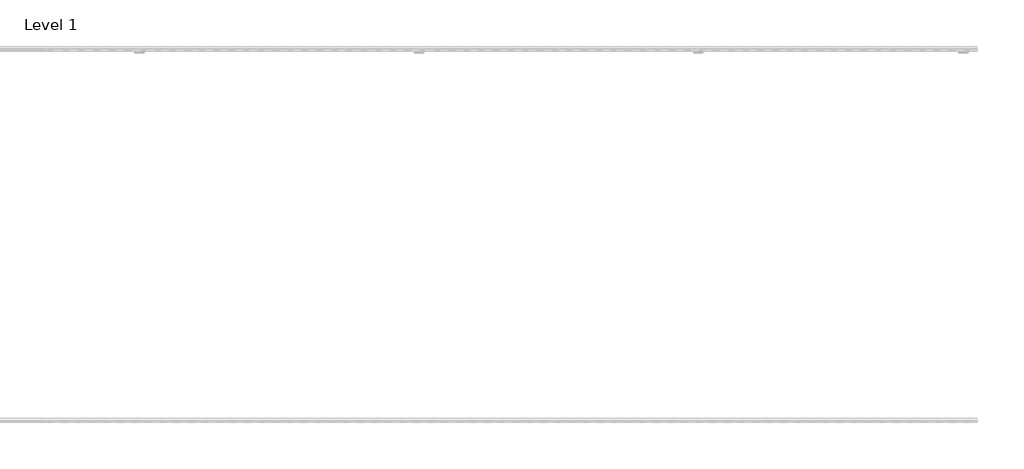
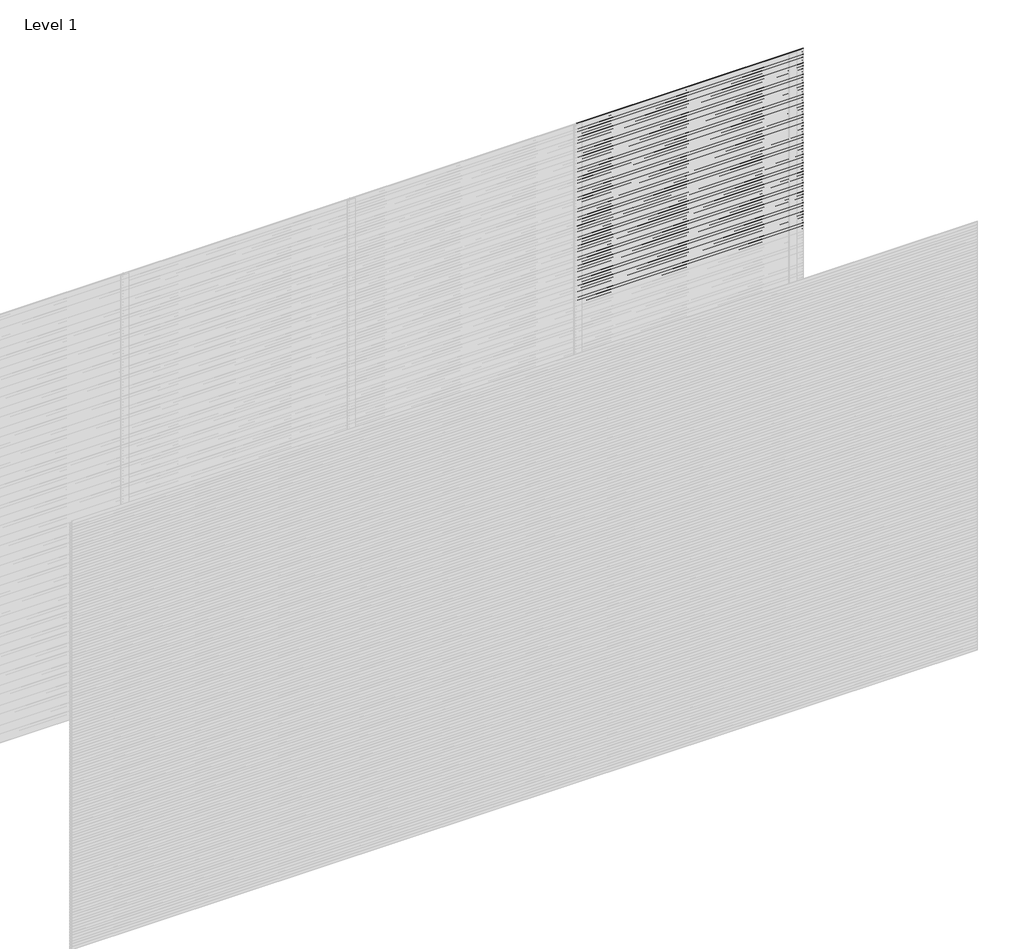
# One storey, part 30 of 31: 104 proxies.
"""IFC4 building model written with IfcOpenShell, lengths in millimetres."""

from ifc_helpers import new_model, si_unit, frame, origin, place, context, project, spatial, polyline, outline, extrude, element, save

model = new_model("IFC4")

# Units and contexts
model_context = context("Model", 3, world=origin())
ifc_project = project(units=[si_unit("LENGTHUNIT", "METRE", prefix="MILLI")], contexts=[model_context])

# Site, building, storey
site = spatial("IfcSite", under=ifc_project)
building = spatial("IfcBuilding", under=site)
storey = spatial("IfcBuildingStorey", under=building, Name="Level 1", Elevation=0.0)

# Proxies
placement = place(None, origin())
element("IfcBuildingElementProxy", 1, Name="Wall Sweeps", at=placement, inside=storey, context=model_context, shape_type="SweptSolid", body=[
    extrude(outline(polyline([(5.0, 820.0), (5.0, 808.942893), (24.0, 793.0), (24.0, 780.0), (3.0, 797.6210923), (3.0, 820.0), (5.0, 820.0)])), frame((3000.0, 0.0, 0.0), z_axis=(1.0, 0.0, 0.0), x_axis=(0.0, 1.0, 0.0)), (0.0, 0.0, 1.0), 1500.0),
])
element("IfcBuildingElementProxy", 2, Name="Wall Sweeps", at=placement, inside=storey, context=model_context, shape_type="SweptSolid", body=[
    extrude(outline(polyline([(5.0, 800.0), (5.0, 788.942893), (24.0, 773.0), (24.0, 760.0), (3.0, 777.6210923), (3.0, 800.0), (5.0, 800.0)])), frame((3000.0, 0.0, 0.0), z_axis=(1.0, 0.0, 0.0), x_axis=(0.0, 1.0, 0.0)), (0.0, 0.0, 1.0), 1500.0),
])
element("IfcBuildingElementProxy", 3, Name="Wall Sweeps", at=placement, inside=storey, context=model_context, shape_type="SweptSolid", body=[
    extrude(outline(polyline([(5.0, 780.0), (5.0, 768.942893), (24.0, 753.0), (24.0, 740.0), (3.0, 757.6210923), (3.0, 780.0), (5.0, 780.0)])), frame((3000.0, 0.0, 0.0), z_axis=(1.0, 0.0, 0.0), x_axis=(0.0, 1.0, 0.0)), (0.0, 0.0, 1.0), 1500.0),
])
element("IfcBuildingElementProxy", 4, Name="Wall Sweeps", at=placement, inside=storey, context=model_context, shape_type="SweptSolid", body=[
    extrude(outline(polyline([(5.0, 760.0), (5.0, 748.942893), (24.0, 733.0), (24.0, 720.0), (3.0, 737.6210923), (3.0, 760.0), (5.0, 760.0)])), frame((3000.0, 0.0, 0.0), z_axis=(1.0, 0.0, 0.0), x_axis=(0.0, 1.0, 0.0)), (0.0, 0.0, 1.0), 1500.0),
])
element("IfcBuildingElementProxy", 5, Name="Wall Sweeps", at=placement, inside=storey, context=model_context, shape_type="SweptSolid", body=[
    extrude(outline(polyline([(5.0, 740.0), (5.0, 728.942893), (24.0, 713.0), (24.0, 700.0), (3.0, 717.6210923), (3.0, 740.0), (5.0, 740.0)])), frame((3000.0, 0.0, 0.0), z_axis=(1.0, 0.0, 0.0), x_axis=(0.0, 1.0, 0.0)), (0.0, 0.0, 1.0), 1500.0),
])
element("IfcBuildingElementProxy", 6, Name="Wall Sweeps", at=placement, inside=storey, context=model_context, shape_type="SweptSolid", body=[
    extrude(outline(polyline([(5.0, 720.0), (5.0, 708.942893), (24.0, 693.0), (24.0, 680.0), (3.0, 697.6210923), (3.0, 720.0), (5.0, 720.0)])), frame((3000.0, 0.0, 0.0), z_axis=(1.0, 0.0, 0.0), x_axis=(0.0, 1.0, 0.0)), (0.0, 0.0, 1.0), 1500.0),
])
element("IfcBuildingElementProxy", 7, Name="Wall Sweeps", at=placement, inside=storey, context=model_context, shape_type="SweptSolid", body=[
    extrude(outline(polyline([(5.0, 700.0), (5.0, 688.942893), (24.0, 673.0), (24.0, 660.0), (3.0, 677.6210923), (3.0, 700.0), (5.0, 700.0)])), frame((3000.0, 0.0, 0.0), z_axis=(1.0, 0.0, 0.0), x_axis=(0.0, 1.0, 0.0)), (0.0, 0.0, 1.0), 1500.0),
])
element("IfcBuildingElementProxy", 8, Name="Wall Sweeps", at=placement, inside=storey, context=model_context, shape_type="SweptSolid", body=[
    extrude(outline(polyline([(5.0, 680.0), (5.0, 668.942893), (24.0, 653.0), (24.0, 640.0), (3.0, 657.6210923), (3.0, 680.0), (5.0, 680.0)])), frame((3000.0, 0.0, 0.0), z_axis=(1.0, 0.0, 0.0), x_axis=(0.0, 1.0, 0.0)), (0.0, 0.0, 1.0), 1500.0),
])
element("IfcBuildingElementProxy", 9, Name="Wall Sweeps", at=placement, inside=storey, context=model_context, shape_type="SweptSolid", body=[
    extrude(outline(polyline([(5.0, 660.0), (5.0, 648.942893), (24.0, 633.0), (24.0, 620.0), (3.0, 637.6210923), (3.0, 660.0), (5.0, 660.0)])), frame((3000.0, 0.0, 0.0), z_axis=(1.0, 0.0, 0.0), x_axis=(0.0, 1.0, 0.0)), (0.0, 0.0, 1.0), 1500.0),
])
element("IfcBuildingElementProxy", 10, Name="Wall Sweeps", at=placement, inside=storey, context=model_context, shape_type="SweptSolid", body=[
    extrude(outline(polyline([(5.0, 640.0), (5.0, 628.942893), (24.0, 613.0), (24.0, 600.0), (3.0, 617.6210923), (3.0, 640.0), (5.0, 640.0)])), frame((3000.0, 0.0, 0.0), z_axis=(1.0, 0.0, 0.0), x_axis=(0.0, 1.0, 0.0)), (0.0, 0.0, 1.0), 1500.0),
])
element("IfcBuildingElementProxy", 11, Name="Wall Sweeps", at=placement, inside=storey, context=model_context, shape_type="SweptSolid", body=[
    extrude(outline(polyline([(5.0, 620.0), (5.0, 608.942893), (24.0, 593.0), (24.0, 580.0), (3.0, 597.6210923), (3.0, 620.0), (5.0, 620.0)])), frame((3000.0, 0.0, 0.0), z_axis=(1.0, 0.0, 0.0), x_axis=(0.0, 1.0, 0.0)), (0.0, 0.0, 1.0), 1500.0),
])
element("IfcBuildingElementProxy", 12, Name="Wall Sweeps", at=placement, inside=storey, context=model_context, shape_type="SweptSolid", body=[
    extrude(outline(polyline([(5.0, 600.0), (5.0, 588.942893), (24.0, 573.0), (24.0, 560.0), (3.0, 577.6210923), (3.0, 600.0), (5.0, 600.0)])), frame((3000.0, 0.0, 0.0), z_axis=(1.0, 0.0, 0.0), x_axis=(0.0, 1.0, 0.0)), (0.0, 0.0, 1.0), 1500.0),
])
element("IfcBuildingElementProxy", 13, Name="Wall Sweeps", at=placement, inside=storey, context=model_context, shape_type="SweptSolid", body=[
    extrude(outline(polyline([(5.0, 580.0), (5.0, 568.942893), (24.0, 553.0), (24.0, 540.0), (3.0, 557.6210923), (3.0, 580.0), (5.0, 580.0)])), frame((3000.0, 0.0, 0.0), z_axis=(1.0, 0.0, 0.0), x_axis=(0.0, 1.0, 0.0)), (0.0, 0.0, 1.0), 1500.0),
])
element("IfcBuildingElementProxy", 14, Name="Wall Sweeps", at=placement, inside=storey, context=model_context, shape_type="SweptSolid", body=[
    extrude(outline(polyline([(5.0, 560.0), (5.0, 548.942893), (24.0, 533.0), (24.0, 520.0), (3.0, 537.6210923), (3.0, 560.0), (5.0, 560.0)])), frame((3000.0, 0.0, 0.0), z_axis=(1.0, 0.0, 0.0), x_axis=(0.0, 1.0, 0.0)), (0.0, 0.0, 1.0), 1500.0),
])
element("IfcBuildingElementProxy", 15, Name="Wall Sweeps", at=placement, inside=storey, context=model_context, shape_type="SweptSolid", body=[
    extrude(outline(polyline([(5.0, 540.0), (5.0, 528.942893), (24.0, 513.0), (24.0, 500.0), (3.0, 517.6210923), (3.0, 540.0), (5.0, 540.0)])), frame((3000.0, 0.0, 0.0), z_axis=(1.0, 0.0, 0.0), x_axis=(0.0, 1.0, 0.0)), (0.0, 0.0, 1.0), 1500.0),
])
element("IfcBuildingElementProxy", 16, Name="Wall Sweeps", at=placement, inside=storey, context=model_context, shape_type="SweptSolid", body=[
    extrude(outline(polyline([(5.0, 520.0), (5.0, 508.942893), (24.0, 493.0), (24.0, 480.0), (3.0, 497.6210923), (3.0, 520.0), (5.0, 520.0)])), frame((3000.0, 0.0, 0.0), z_axis=(1.0, 0.0, 0.0), x_axis=(0.0, 1.0, 0.0)), (0.0, 0.0, 1.0), 1500.0),
])
element("IfcBuildingElementProxy", 17, Name="Wall Sweeps", at=placement, inside=storey, context=model_context, shape_type="SweptSolid", body=[
    extrude(outline(polyline([(5.0, 500.0), (5.0, 488.942893), (24.0, 473.0), (24.0, 460.0), (3.0, 477.6210923), (3.0, 500.0), (5.0, 500.0)])), frame((3000.0, 0.0, 0.0), z_axis=(1.0, 0.0, 0.0), x_axis=(0.0, 1.0, 0.0)), (0.0, 0.0, 1.0), 1500.0),
])
element("IfcBuildingElementProxy", 18, Name="Wall Sweeps", at=placement, inside=storey, context=model_context, shape_type="SweptSolid", body=[
    extrude(outline(polyline([(5.0, 480.0), (5.0, 468.942893), (24.0, 453.0), (24.0, 440.0), (3.0, 457.6210923), (3.0, 480.0), (5.0, 480.0)])), frame((3000.0, 0.0, 0.0), z_axis=(1.0, 0.0, 0.0), x_axis=(0.0, 1.0, 0.0)), (0.0, 0.0, 1.0), 1500.0),
])
element("IfcBuildingElementProxy", 19, Name="Wall Sweeps", at=placement, inside=storey, context=model_context, shape_type="SweptSolid", body=[
    extrude(outline(polyline([(5.0, 460.0), (5.0, 448.942893), (24.0, 433.0), (24.0, 420.0), (3.0, 437.6210923), (3.0, 460.0), (5.0, 460.0)])), frame((3000.0, 0.0, 0.0), z_axis=(1.0, 0.0, 0.0), x_axis=(0.0, 1.0, 0.0)), (0.0, 0.0, 1.0), 1500.0),
])
element("IfcBuildingElementProxy", 20, Name="Wall Sweeps", at=placement, inside=storey, context=model_context, shape_type="SweptSolid", body=[
    extrude(outline(polyline([(5.0, 440.0), (5.0, 428.942893), (24.0, 413.0), (24.0, 400.0), (3.0, 417.6210923), (3.0, 440.0), (5.0, 440.0)])), frame((3000.0, 0.0, 0.0), z_axis=(1.0, 0.0, 0.0), x_axis=(0.0, 1.0, 0.0)), (0.0, 0.0, 1.0), 1500.0),
])
element("IfcBuildingElementProxy", 21, Name="Wall Sweeps", at=placement, inside=storey, context=model_context, shape_type="SweptSolid", body=[
    extrude(outline(polyline([(5.0, 420.0), (5.0, 408.942893), (24.0, 393.0), (24.0, 380.0), (3.0, 397.6210923), (3.0, 420.0), (5.0, 420.0)])), frame((3000.0, 0.0, 0.0), z_axis=(1.0, 0.0, 0.0), x_axis=(0.0, 1.0, 0.0)), (0.0, 0.0, 1.0), 1500.0),
])
element("IfcBuildingElementProxy", 22, Name="Wall Sweeps", at=placement, inside=storey, context=model_context, shape_type="SweptSolid", body=[
    extrude(outline(polyline([(5.0, 400.0), (5.0, 388.942893), (24.0, 373.0), (24.0, 360.0), (3.0, 377.6210923), (3.0, 400.0), (5.0, 400.0)])), frame((3000.0, 0.0, 0.0), z_axis=(1.0, 0.0, 0.0), x_axis=(0.0, 1.0, 0.0)), (0.0, 0.0, 1.0), 1500.0),
])
element("IfcBuildingElementProxy", 23, Name="Wall Sweeps", at=placement, inside=storey, context=model_context, shape_type="SweptSolid", body=[
    extrude(outline(polyline([(5.0, 380.0), (5.0, 368.942893), (24.0, 353.0), (24.0, 340.0), (3.0, 357.6210923), (3.0, 380.0), (5.0, 380.0)])), frame((3000.0, 0.0, 0.0), z_axis=(1.0, 0.0, 0.0), x_axis=(0.0, 1.0, 0.0)), (0.0, 0.0, 1.0), 1500.0),
])
element("IfcBuildingElementProxy", 24, Name="Wall Sweeps", at=placement, inside=storey, context=model_context, shape_type="SweptSolid", body=[
    extrude(outline(polyline([(5.0, 360.0), (5.0, 348.942893), (24.0, 333.0), (24.0, 320.0), (3.0, 337.6210923), (3.0, 360.0), (5.0, 360.0)])), frame((3000.0, 0.0, 0.0), z_axis=(1.0, 0.0, 0.0), x_axis=(0.0, 1.0, 0.0)), (0.0, 0.0, 1.0), 1500.0),
])
element("IfcBuildingElementProxy", 25, Name="Wall Sweeps", at=placement, inside=storey, context=model_context, shape_type="SweptSolid", body=[
    extrude(outline(polyline([(5.0, 340.0), (5.0, 328.942893), (24.0, 313.0), (24.0, 300.0), (3.0, 317.6210923), (3.0, 340.0), (5.0, 340.0)])), frame((3000.0, 0.0, 0.0), z_axis=(1.0, 0.0, 0.0), x_axis=(0.0, 1.0, 0.0)), (0.0, 0.0, 1.0), 1500.0),
])
element("IfcBuildingElementProxy", 26, Name="Wall Sweeps", at=placement, inside=storey, context=model_context, shape_type="SweptSolid", body=[
    extrude(outline(polyline([(5.0, 320.0), (5.0, 308.942893), (24.0, 293.0), (24.0, 280.0), (3.0, 297.6210923), (3.0, 320.0), (5.0, 320.0)])), frame((3000.0, 0.0, 0.0), z_axis=(1.0, 0.0, 0.0), x_axis=(0.0, 1.0, 0.0)), (0.0, 0.0, 1.0), 1500.0),
])
element("IfcBuildingElementProxy", 27, Name="Wall Sweeps", at=placement, inside=storey, context=model_context, shape_type="SweptSolid", body=[
    extrude(outline(polyline([(5.0, 300.0), (5.0, 288.942893), (24.0, 273.0), (24.0, 260.0), (3.0, 277.6210923), (3.0, 300.0), (5.0, 300.0)])), frame((3000.0, 0.0, 0.0), z_axis=(1.0, 0.0, 0.0), x_axis=(0.0, 1.0, 0.0)), (0.0, 0.0, 1.0), 1500.0),
])
element("IfcBuildingElementProxy", 28, Name="Wall Sweeps", at=placement, inside=storey, context=model_context, shape_type="SweptSolid", body=[
    extrude(outline(polyline([(5.0, 280.0), (5.0, 268.942893), (24.0, 253.0), (24.0, 240.0), (3.0, 257.6210923), (3.0, 280.0), (5.0, 280.0)])), frame((3000.0, 0.0, 0.0), z_axis=(1.0, 0.0, 0.0), x_axis=(0.0, 1.0, 0.0)), (0.0, 0.0, 1.0), 1500.0),
])
element("IfcBuildingElementProxy", 29, Name="Wall Sweeps", at=placement, inside=storey, context=model_context, shape_type="SweptSolid", body=[
    extrude(outline(polyline([(5.0, 260.0), (5.0, 248.942893), (24.0, 233.0), (24.0, 220.0), (3.0, 237.6210923), (3.0, 260.0), (5.0, 260.0)])), frame((3000.0, 0.0, 0.0), z_axis=(1.0, 0.0, 0.0), x_axis=(0.0, 1.0, 0.0)), (0.0, 0.0, 1.0), 1500.0),
])
element("IfcBuildingElementProxy", 30, Name="Wall Sweeps", at=placement, inside=storey, context=model_context, shape_type="SweptSolid", body=[
    extrude(outline(polyline([(5.0, 240.0), (5.0, 228.942893), (24.0, 213.0), (24.0, 200.0), (3.0, 217.6210923), (3.0, 240.0), (5.0, 240.0)])), frame((3000.0, 0.0, 0.0), z_axis=(1.0, 0.0, 0.0), x_axis=(0.0, 1.0, 0.0)), (0.0, 0.0, 1.0), 1500.0),
])
element("IfcBuildingElementProxy", 31, Name="Wall Sweeps", at=placement, inside=storey, context=model_context, shape_type="SweptSolid", body=[
    extrude(outline(polyline([(5.0, 220.0), (5.0, 208.942893), (24.0, 193.0), (24.0, 180.0), (3.0, 197.6210923), (3.0, 220.0), (5.0, 220.0)])), frame((3000.0, 0.0, 0.0), z_axis=(1.0, 0.0, 0.0), x_axis=(0.0, 1.0, 0.0)), (0.0, 0.0, 1.0), 1500.0),
])
element("IfcBuildingElementProxy", 32, Name="Wall Sweeps", at=placement, inside=storey, context=model_context, shape_type="SweptSolid", body=[
    extrude(outline(polyline([(5.0, 200.0), (5.0, 188.942893), (24.0, 173.0), (24.0, 160.0), (3.0, 177.6210923), (3.0, 200.0), (5.0, 200.0)])), frame((3000.0, 0.0, 0.0), z_axis=(1.0, 0.0, 0.0), x_axis=(0.0, 1.0, 0.0)), (0.0, 0.0, 1.0), 1500.0),
])
element("IfcBuildingElementProxy", 33, Name="Wall Sweeps", at=placement, inside=storey, context=model_context, shape_type="SweptSolid", body=[
    extrude(outline(polyline([(5.0, 180.0), (5.0, 168.942893), (24.0, 153.0), (24.0, 140.0), (3.0, 157.6210923), (3.0, 180.0), (5.0, 180.0)])), frame((3000.0, 0.0, 0.0), z_axis=(1.0, 0.0, 0.0), x_axis=(0.0, 1.0, 0.0)), (0.0, 0.0, 1.0), 1500.0),
])
element("IfcBuildingElementProxy", 34, Name="Wall Sweeps", at=placement, inside=storey, context=model_context, shape_type="SweptSolid", body=[
    extrude(outline(polyline([(5.0, 160.0), (5.0, 148.942893), (24.0, 133.0), (24.0, 120.0), (3.0, 137.6210923), (3.0, 160.0), (5.0, 160.0)])), frame((3000.0, 0.0, 0.0), z_axis=(1.0, 0.0, 0.0), x_axis=(0.0, 1.0, 0.0)), (0.0, 0.0, 1.0), 1500.0),
])
element("IfcBuildingElementProxy", 35, Name="Wall Sweeps", at=placement, inside=storey, context=model_context, shape_type="SweptSolid", body=[
    extrude(outline(polyline([(5.0, 140.0), (5.0, 128.942893), (24.0, 113.0), (24.0, 100.0), (3.0, 117.6210923), (3.0, 140.0), (5.0, 140.0)])), frame((3000.0, 0.0, 0.0), z_axis=(1.0, 0.0, 0.0), x_axis=(0.0, 1.0, 0.0)), (0.0, 0.0, 1.0), 1500.0),
])
element("IfcBuildingElementProxy", 36, Name="Wall Sweeps", at=placement, inside=storey, context=model_context, shape_type="SweptSolid", body=[
    extrude(outline(polyline([(5.0, 120.0), (5.0, 108.942893), (24.0, 93.0), (24.0, 80.0), (3.0, 97.6210923), (3.0, 120.0), (5.0, 120.0)])), frame((3000.0, 0.0, 0.0), z_axis=(1.0, 0.0, 0.0), x_axis=(0.0, 1.0, 0.0)), (0.0, 0.0, 1.0), 1500.0),
])
element("IfcBuildingElementProxy", 37, Name="Wall Sweeps", at=placement, inside=storey, context=model_context, shape_type="SweptSolid", body=[
    extrude(outline(polyline([(5.0, 100.0), (5.0, 88.942893), (24.0, 73.0), (24.0, 60.0), (3.0, 77.6210923), (3.0, 100.0), (5.0, 100.0)])), frame((3000.0, 0.0, 0.0), z_axis=(1.0, 0.0, 0.0), x_axis=(0.0, 1.0, 0.0)), (0.0, 0.0, 1.0), 1500.0),
])
element("IfcBuildingElementProxy", 38, Name="Wall Sweeps", at=placement, inside=storey, context=model_context, shape_type="SweptSolid", body=[
    extrude(outline(polyline([(5.0, 80.0), (5.0, 68.942893), (24.0, 53.0), (24.0, 40.0), (3.0, 57.6210923), (3.0, 80.0), (5.0, 80.0)])), frame((3000.0, 0.0, 0.0), z_axis=(1.0, 0.0, 0.0), x_axis=(0.0, 1.0, 0.0)), (0.0, 0.0, 1.0), 1500.0),
])
element("IfcBuildingElementProxy", 39, Name="Wall Sweeps", at=placement, inside=storey, context=model_context, shape_type="SweptSolid", body=[
    extrude(outline(polyline([(5.0, 60.0), (5.0, 48.942893), (24.0, 33.0), (24.0, 20.0), (3.0, 37.6210923), (3.0, 60.0), (5.0, 60.0)])), frame((3000.0, 0.0, 0.0), z_axis=(1.0, 0.0, 0.0), x_axis=(0.0, 1.0, 0.0)), (0.0, 0.0, 1.0), 1500.0),
])
element("IfcBuildingElementProxy", 40, Name="Wall Sweeps", at=placement, inside=storey, context=model_context, shape_type="SweptSolid", body=[
    extrude(outline(polyline([(5.0, 40.0), (5.0, 28.942893), (24.0, 13.0), (24.0, 0.0), (3.0, 17.6210923), (3.0, 40.0), (5.0, 40.0)])), frame((3000.0, 0.0, 0.0), z_axis=(1.0, 0.0, 0.0), x_axis=(0.0, 1.0, 0.0)), (0.0, 0.0, 1.0), 1500.0),
])
element("IfcBuildingElementProxy", 41, Name="Wall Sweeps", at=placement, inside=storey, context=model_context, shape_type="SweptSolid", body=[
    extrude(outline(polyline([(5.0, 20.0), (5.0, 8.942893), (24.0, -7.0), (24.0, -20.0), (3.0, -2.3789077), (3.0, 20.0), (5.0, 20.0)])), frame((3000.0, 0.0, 0.0), z_axis=(1.0, 0.0, 0.0), x_axis=(0.0, 1.0, 0.0)), (0.0, 0.0, 1.0), 1500.0),
])
element("IfcBuildingElementProxy", 42, Name="Wall Sweeps", at=placement, inside=storey, context=model_context, shape_type="SweptSolid", body=[
    extrude(outline(polyline([(5.0, 3000.0), (5.0, 2988.942893), (24.0, 2973.0), (24.0, 2960.0), (3.0, 2977.6210923), (3.0, 3000.0), (5.0, 3000.0)])), frame((4500.0, 0.0, 0.0), z_axis=(1.0, 0.0, 0.0), x_axis=(0.0, 1.0, 0.0)), (0.0, 0.0, 1.0), 1500.0),
])
element("IfcBuildingElementProxy", 43, Name="Wall Sweeps", at=placement, inside=storey, context=model_context, shape_type="SweptSolid", body=[
    extrude(outline(polyline([(5.0, 2980.0), (5.0, 2968.942893), (24.0, 2953.0), (24.0, 2940.0), (3.0, 2957.6210923), (3.0, 2980.0), (5.0, 2980.0)])), frame((4500.0, 0.0, 0.0), z_axis=(1.0, 0.0, 0.0), x_axis=(0.0, 1.0, 0.0)), (0.0, 0.0, 1.0), 1500.0),
])
element("IfcBuildingElementProxy", 44, Name="Wall Sweeps", at=placement, inside=storey, context=model_context, shape_type="SweptSolid", body=[
    extrude(outline(polyline([(5.0, 2960.0), (5.0, 2948.942893), (24.0, 2933.0), (24.0, 2920.0), (3.0, 2937.6210923), (3.0, 2960.0), (5.0, 2960.0)])), frame((4500.0, 0.0, 0.0), z_axis=(1.0, 0.0, 0.0), x_axis=(0.0, 1.0, 0.0)), (0.0, 0.0, 1.0), 1500.0),
])
element("IfcBuildingElementProxy", 45, Name="Wall Sweeps", at=placement, inside=storey, context=model_context, shape_type="SweptSolid", body=[
    extrude(outline(polyline([(5.0, 2940.0), (5.0, 2928.942893), (24.0, 2913.0), (24.0, 2900.0), (3.0, 2917.6210923), (3.0, 2940.0), (5.0, 2940.0)])), frame((4500.0, 0.0, 0.0), z_axis=(1.0, 0.0, 0.0), x_axis=(0.0, 1.0, 0.0)), (0.0, 0.0, 1.0), 1500.0),
])
element("IfcBuildingElementProxy", 46, Name="Wall Sweeps", at=placement, inside=storey, context=model_context, shape_type="SweptSolid", body=[
    extrude(outline(polyline([(5.0, 2920.0), (5.0, 2908.942893), (24.0, 2893.0), (24.0, 2880.0), (3.0, 2897.6210923), (3.0, 2920.0), (5.0, 2920.0)])), frame((4500.0, 0.0, 0.0), z_axis=(1.0, 0.0, 0.0), x_axis=(0.0, 1.0, 0.0)), (0.0, 0.0, 1.0), 1500.0),
])
element("IfcBuildingElementProxy", 47, Name="Wall Sweeps", at=placement, inside=storey, context=model_context, shape_type="SweptSolid", body=[
    extrude(outline(polyline([(5.0, 2900.0), (5.0, 2888.942893), (24.0, 2873.0), (24.0, 2860.0), (3.0, 2877.6210923), (3.0, 2900.0), (5.0, 2900.0)])), frame((4500.0, 0.0, 0.0), z_axis=(1.0, 0.0, 0.0), x_axis=(0.0, 1.0, 0.0)), (0.0, 0.0, 1.0), 1500.0),
])
element("IfcBuildingElementProxy", 48, Name="Wall Sweeps", at=placement, inside=storey, context=model_context, shape_type="SweptSolid", body=[
    extrude(outline(polyline([(5.0, 2880.0), (5.0, 2868.942893), (24.0, 2853.0), (24.0, 2840.0), (3.0, 2857.6210923), (3.0, 2880.0), (5.0, 2880.0)])), frame((4500.0, 0.0, 0.0), z_axis=(1.0, 0.0, 0.0), x_axis=(0.0, 1.0, 0.0)), (0.0, 0.0, 1.0), 1500.0),
])
element("IfcBuildingElementProxy", 49, Name="Wall Sweeps", at=placement, inside=storey, context=model_context, shape_type="SweptSolid", body=[
    extrude(outline(polyline([(5.0, 2860.0), (5.0, 2848.942893), (24.0, 2833.0), (24.0, 2820.0), (3.0, 2837.6210923), (3.0, 2860.0), (5.0, 2860.0)])), frame((4500.0, 0.0, 0.0), z_axis=(1.0, 0.0, 0.0), x_axis=(0.0, 1.0, 0.0)), (0.0, 0.0, 1.0), 1500.0),
])
element("IfcBuildingElementProxy", 50, Name="Wall Sweeps", at=placement, inside=storey, context=model_context, shape_type="SweptSolid", body=[
    extrude(outline(polyline([(5.0, 2840.0), (5.0, 2828.942893), (24.0, 2813.0), (24.0, 2800.0), (3.0, 2817.6210923), (3.0, 2840.0), (5.0, 2840.0)])), frame((4500.0, 0.0, 0.0), z_axis=(1.0, 0.0, 0.0), x_axis=(0.0, 1.0, 0.0)), (0.0, 0.0, 1.0), 1500.0),
])
element("IfcBuildingElementProxy", 51, Name="Wall Sweeps", at=placement, inside=storey, context=model_context, shape_type="SweptSolid", body=[
    extrude(outline(polyline([(5.0, 2820.0), (5.0, 2808.942893), (24.0, 2793.0), (24.0, 2780.0), (3.0, 2797.6210923), (3.0, 2820.0), (5.0, 2820.0)])), frame((4500.0, 0.0, 0.0), z_axis=(1.0, 0.0, 0.0), x_axis=(0.0, 1.0, 0.0)), (0.0, 0.0, 1.0), 1500.0),
])
element("IfcBuildingElementProxy", 52, Name="Wall Sweeps", at=placement, inside=storey, context=model_context, shape_type="SweptSolid", body=[
    extrude(outline(polyline([(5.0, 2800.0), (5.0, 2788.942893), (24.0, 2773.0), (24.0, 2760.0), (3.0, 2777.6210923), (3.0, 2800.0), (5.0, 2800.0)])), frame((4500.0, 0.0, 0.0), z_axis=(1.0, 0.0, 0.0), x_axis=(0.0, 1.0, 0.0)), (0.0, 0.0, 1.0), 1500.0),
])
element("IfcBuildingElementProxy", 53, Name="Wall Sweeps", at=placement, inside=storey, context=model_context, shape_type="SweptSolid", body=[
    extrude(outline(polyline([(5.0, 2780.0), (5.0, 2768.942893), (24.0, 2753.0), (24.0, 2740.0), (3.0, 2757.6210923), (3.0, 2780.0), (5.0, 2780.0)])), frame((4500.0, 0.0, 0.0), z_axis=(1.0, 0.0, 0.0), x_axis=(0.0, 1.0, 0.0)), (0.0, 0.0, 1.0), 1500.0),
])
element("IfcBuildingElementProxy", 54, Name="Wall Sweeps", at=placement, inside=storey, context=model_context, shape_type="SweptSolid", body=[
    extrude(outline(polyline([(5.0, 2760.0), (5.0, 2748.942893), (24.0, 2733.0), (24.0, 2720.0), (3.0, 2737.6210923), (3.0, 2760.0), (5.0, 2760.0)])), frame((4500.0, 0.0, 0.0), z_axis=(1.0, 0.0, 0.0), x_axis=(0.0, 1.0, 0.0)), (0.0, 0.0, 1.0), 1500.0),
])
element("IfcBuildingElementProxy", 55, Name="Wall Sweeps", at=placement, inside=storey, context=model_context, shape_type="SweptSolid", body=[
    extrude(outline(polyline([(5.0, 2740.0), (5.0, 2728.942893), (24.0, 2713.0), (24.0, 2700.0), (3.0, 2717.6210923), (3.0, 2740.0), (5.0, 2740.0)])), frame((4500.0, 0.0, 0.0), z_axis=(1.0, 0.0, 0.0), x_axis=(0.0, 1.0, 0.0)), (0.0, 0.0, 1.0), 1500.0),
])
element("IfcBuildingElementProxy", 56, Name="Wall Sweeps", at=placement, inside=storey, context=model_context, shape_type="SweptSolid", body=[
    extrude(outline(polyline([(5.0, 2720.0), (5.0, 2708.942893), (24.0, 2693.0), (24.0, 2680.0), (3.0, 2697.6210923), (3.0, 2720.0), (5.0, 2720.0)])), frame((4500.0, 0.0, 0.0), z_axis=(1.0, 0.0, 0.0), x_axis=(0.0, 1.0, 0.0)), (0.0, 0.0, 1.0), 1500.0),
])
element("IfcBuildingElementProxy", 57, Name="Wall Sweeps", at=placement, inside=storey, context=model_context, shape_type="SweptSolid", body=[
    extrude(outline(polyline([(5.0, 2700.0), (5.0, 2688.942893), (24.0, 2673.0), (24.0, 2660.0), (3.0, 2677.6210923), (3.0, 2700.0), (5.0, 2700.0)])), frame((4500.0, 0.0, 0.0), z_axis=(1.0, 0.0, 0.0), x_axis=(0.0, 1.0, 0.0)), (0.0, 0.0, 1.0), 1500.0),
])
element("IfcBuildingElementProxy", 58, Name="Wall Sweeps", at=placement, inside=storey, context=model_context, shape_type="SweptSolid", body=[
    extrude(outline(polyline([(5.0, 2680.0), (5.0, 2668.942893), (24.0, 2653.0), (24.0, 2640.0), (3.0, 2657.6210923), (3.0, 2680.0), (5.0, 2680.0)])), frame((4500.0, 0.0, 0.0), z_axis=(1.0, 0.0, 0.0), x_axis=(0.0, 1.0, 0.0)), (0.0, 0.0, 1.0), 1500.0),
])
element("IfcBuildingElementProxy", 59, Name="Wall Sweeps", at=placement, inside=storey, context=model_context, shape_type="SweptSolid", body=[
    extrude(outline(polyline([(5.0, 2660.0), (5.0, 2648.942893), (24.0, 2633.0), (24.0, 2620.0), (3.0, 2637.6210923), (3.0, 2660.0), (5.0, 2660.0)])), frame((4500.0, 0.0, 0.0), z_axis=(1.0, 0.0, 0.0), x_axis=(0.0, 1.0, 0.0)), (0.0, 0.0, 1.0), 1500.0),
])
element("IfcBuildingElementProxy", 60, Name="Wall Sweeps", at=placement, inside=storey, context=model_context, shape_type="SweptSolid", body=[
    extrude(outline(polyline([(5.0, 2640.0), (5.0, 2628.942893), (24.0, 2613.0), (24.0, 2600.0), (3.0, 2617.6210923), (3.0, 2640.0), (5.0, 2640.0)])), frame((4500.0, 0.0, 0.0), z_axis=(1.0, 0.0, 0.0), x_axis=(0.0, 1.0, 0.0)), (0.0, 0.0, 1.0), 1500.0),
])
element("IfcBuildingElementProxy", 61, Name="Wall Sweeps", at=placement, inside=storey, context=model_context, shape_type="SweptSolid", body=[
    extrude(outline(polyline([(5.0, 2620.0), (5.0, 2608.942893), (24.0, 2593.0), (24.0, 2580.0), (3.0, 2597.6210923), (3.0, 2620.0), (5.0, 2620.0)])), frame((4500.0, 0.0, 0.0), z_axis=(1.0, 0.0, 0.0), x_axis=(0.0, 1.0, 0.0)), (0.0, 0.0, 1.0), 1500.0),
])
element("IfcBuildingElementProxy", 62, Name="Wall Sweeps", at=placement, inside=storey, context=model_context, shape_type="SweptSolid", body=[
    extrude(outline(polyline([(5.0, 2600.0), (5.0, 2588.942893), (24.0, 2573.0), (24.0, 2560.0), (3.0, 2577.6210923), (3.0, 2600.0), (5.0, 2600.0)])), frame((4500.0, 0.0, 0.0), z_axis=(1.0, 0.0, 0.0), x_axis=(0.0, 1.0, 0.0)), (0.0, 0.0, 1.0), 1500.0),
])
element("IfcBuildingElementProxy", 63, Name="Wall Sweeps", at=placement, inside=storey, context=model_context, shape_type="SweptSolid", body=[
    extrude(outline(polyline([(5.0, 2580.0), (5.0, 2568.942893), (24.0, 2553.0), (24.0, 2540.0), (3.0, 2557.6210923), (3.0, 2580.0), (5.0, 2580.0)])), frame((4500.0, 0.0, 0.0), z_axis=(1.0, 0.0, 0.0), x_axis=(0.0, 1.0, 0.0)), (0.0, 0.0, 1.0), 1500.0),
])
element("IfcBuildingElementProxy", 64, Name="Wall Sweeps", at=placement, inside=storey, context=model_context, shape_type="SweptSolid", body=[
    extrude(outline(polyline([(5.0, 2560.0), (5.0, 2548.942893), (24.0, 2533.0), (24.0, 2520.0), (3.0, 2537.6210923), (3.0, 2560.0), (5.0, 2560.0)])), frame((4500.0, 0.0, 0.0), z_axis=(1.0, 0.0, 0.0), x_axis=(0.0, 1.0, 0.0)), (0.0, 0.0, 1.0), 1500.0),
])
element("IfcBuildingElementProxy", 65, Name="Wall Sweeps", at=placement, inside=storey, context=model_context, shape_type="SweptSolid", body=[
    extrude(outline(polyline([(5.0, 2540.0), (5.0, 2528.942893), (24.0, 2513.0), (24.0, 2500.0), (3.0, 2517.6210923), (3.0, 2540.0), (5.0, 2540.0)])), frame((4500.0, 0.0, 0.0), z_axis=(1.0, 0.0, 0.0), x_axis=(0.0, 1.0, 0.0)), (0.0, 0.0, 1.0), 1500.0),
])
element("IfcBuildingElementProxy", 66, Name="Wall Sweeps", at=placement, inside=storey, context=model_context, shape_type="SweptSolid", body=[
    extrude(outline(polyline([(5.0, 2520.0), (5.0, 2508.942893), (24.0, 2493.0), (24.0, 2480.0), (3.0, 2497.6210923), (3.0, 2520.0), (5.0, 2520.0)])), frame((4500.0, 0.0, 0.0), z_axis=(1.0, 0.0, 0.0), x_axis=(0.0, 1.0, 0.0)), (0.0, 0.0, 1.0), 1500.0),
])
element("IfcBuildingElementProxy", 67, Name="Wall Sweeps", at=placement, inside=storey, context=model_context, shape_type="SweptSolid", body=[
    extrude(outline(polyline([(5.0, 2500.0), (5.0, 2488.942893), (24.0, 2473.0), (24.0, 2460.0), (3.0, 2477.6210923), (3.0, 2500.0), (5.0, 2500.0)])), frame((4500.0, 0.0, 0.0), z_axis=(1.0, 0.0, 0.0), x_axis=(0.0, 1.0, 0.0)), (0.0, 0.0, 1.0), 1500.0),
])
element("IfcBuildingElementProxy", 68, Name="Wall Sweeps", at=placement, inside=storey, context=model_context, shape_type="SweptSolid", body=[
    extrude(outline(polyline([(5.0, 2480.0), (5.0, 2468.942893), (24.0, 2453.0), (24.0, 2440.0), (3.0, 2457.6210923), (3.0, 2480.0), (5.0, 2480.0)])), frame((4500.0, 0.0, 0.0), z_axis=(1.0, 0.0, 0.0), x_axis=(0.0, 1.0, 0.0)), (0.0, 0.0, 1.0), 1500.0),
])
element("IfcBuildingElementProxy", 69, Name="Wall Sweeps", at=placement, inside=storey, context=model_context, shape_type="SweptSolid", body=[
    extrude(outline(polyline([(5.0, 2460.0), (5.0, 2448.942893), (24.0, 2433.0), (24.0, 2420.0), (3.0, 2437.6210923), (3.0, 2460.0), (5.0, 2460.0)])), frame((4500.0, 0.0, 0.0), z_axis=(1.0, 0.0, 0.0), x_axis=(0.0, 1.0, 0.0)), (0.0, 0.0, 1.0), 1500.0),
])
element("IfcBuildingElementProxy", 70, Name="Wall Sweeps", at=placement, inside=storey, context=model_context, shape_type="SweptSolid", body=[
    extrude(outline(polyline([(5.0, 2440.0), (5.0, 2428.942893), (24.0, 2413.0), (24.0, 2400.0), (3.0, 2417.6210923), (3.0, 2440.0), (5.0, 2440.0)])), frame((4500.0, 0.0, 0.0), z_axis=(1.0, 0.0, 0.0), x_axis=(0.0, 1.0, 0.0)), (0.0, 0.0, 1.0), 1500.0),
])
element("IfcBuildingElementProxy", 71, Name="Wall Sweeps", at=placement, inside=storey, context=model_context, shape_type="SweptSolid", body=[
    extrude(outline(polyline([(5.0, 2420.0), (5.0, 2408.942893), (24.0, 2393.0), (24.0, 2380.0), (3.0, 2397.6210923), (3.0, 2420.0), (5.0, 2420.0)])), frame((4500.0, 0.0, 0.0), z_axis=(1.0, 0.0, 0.0), x_axis=(0.0, 1.0, 0.0)), (0.0, 0.0, 1.0), 1500.0),
])
element("IfcBuildingElementProxy", 72, Name="Wall Sweeps", at=placement, inside=storey, context=model_context, shape_type="SweptSolid", body=[
    extrude(outline(polyline([(5.0, 2400.0), (5.0, 2388.942893), (24.0, 2373.0), (24.0, 2360.0), (3.0, 2377.6210923), (3.0, 2400.0), (5.0, 2400.0)])), frame((4500.0, 0.0, 0.0), z_axis=(1.0, 0.0, 0.0), x_axis=(0.0, 1.0, 0.0)), (0.0, 0.0, 1.0), 1500.0),
])
element("IfcBuildingElementProxy", 73, Name="Wall Sweeps", at=placement, inside=storey, context=model_context, shape_type="SweptSolid", body=[
    extrude(outline(polyline([(5.0, 2380.0), (5.0, 2368.942893), (24.0, 2353.0), (24.0, 2340.0), (3.0, 2357.6210923), (3.0, 2380.0), (5.0, 2380.0)])), frame((4500.0, 0.0, 0.0), z_axis=(1.0, 0.0, 0.0), x_axis=(0.0, 1.0, 0.0)), (0.0, 0.0, 1.0), 1500.0),
])
element("IfcBuildingElementProxy", 74, Name="Wall Sweeps", at=placement, inside=storey, context=model_context, shape_type="SweptSolid", body=[
    extrude(outline(polyline([(5.0, 2360.0), (5.0, 2348.942893), (24.0, 2333.0), (24.0, 2320.0), (3.0, 2337.6210923), (3.0, 2360.0), (5.0, 2360.0)])), frame((4500.0, 0.0, 0.0), z_axis=(1.0, 0.0, 0.0), x_axis=(0.0, 1.0, 0.0)), (0.0, 0.0, 1.0), 1500.0),
])
element("IfcBuildingElementProxy", 75, Name="Wall Sweeps", at=placement, inside=storey, context=model_context, shape_type="SweptSolid", body=[
    extrude(outline(polyline([(5.0, 2340.0), (5.0, 2328.942893), (24.0, 2313.0), (24.0, 2300.0), (3.0, 2317.6210923), (3.0, 2340.0), (5.0, 2340.0)])), frame((4500.0, 0.0, 0.0), z_axis=(1.0, 0.0, 0.0), x_axis=(0.0, 1.0, 0.0)), (0.0, 0.0, 1.0), 1500.0),
])
element("IfcBuildingElementProxy", 76, Name="Wall Sweeps", at=placement, inside=storey, context=model_context, shape_type="SweptSolid", body=[
    extrude(outline(polyline([(5.0, 2320.0), (5.0, 2308.942893), (24.0, 2293.0), (24.0, 2280.0), (3.0, 2297.6210923), (3.0, 2320.0), (5.0, 2320.0)])), frame((4500.0, 0.0, 0.0), z_axis=(1.0, 0.0, 0.0), x_axis=(0.0, 1.0, 0.0)), (0.0, 0.0, 1.0), 1500.0),
])
element("IfcBuildingElementProxy", 77, Name="Wall Sweeps", at=placement, inside=storey, context=model_context, shape_type="SweptSolid", body=[
    extrude(outline(polyline([(5.0, 2300.0), (5.0, 2288.942893), (24.0, 2273.0), (24.0, 2260.0), (3.0, 2277.6210923), (3.0, 2300.0), (5.0, 2300.0)])), frame((4500.0, 0.0, 0.0), z_axis=(1.0, 0.0, 0.0), x_axis=(0.0, 1.0, 0.0)), (0.0, 0.0, 1.0), 1500.0),
])
element("IfcBuildingElementProxy", 78, Name="Wall Sweeps", at=placement, inside=storey, context=model_context, shape_type="SweptSolid", body=[
    extrude(outline(polyline([(5.0, 2280.0), (5.0, 2268.942893), (24.0, 2253.0), (24.0, 2240.0), (3.0, 2257.6210923), (3.0, 2280.0), (5.0, 2280.0)])), frame((4500.0, 0.0, 0.0), z_axis=(1.0, 0.0, 0.0), x_axis=(0.0, 1.0, 0.0)), (0.0, 0.0, 1.0), 1500.0),
])
element("IfcBuildingElementProxy", 79, Name="Wall Sweeps", at=placement, inside=storey, context=model_context, shape_type="SweptSolid", body=[
    extrude(outline(polyline([(5.0, 2260.0), (5.0, 2248.942893), (24.0, 2233.0), (24.0, 2220.0), (3.0, 2237.6210923), (3.0, 2260.0), (5.0, 2260.0)])), frame((4500.0, 0.0, 0.0), z_axis=(1.0, 0.0, 0.0), x_axis=(0.0, 1.0, 0.0)), (0.0, 0.0, 1.0), 1500.0),
])
element("IfcBuildingElementProxy", 80, Name="Wall Sweeps", at=placement, inside=storey, context=model_context, shape_type="SweptSolid", body=[
    extrude(outline(polyline([(5.0, 2240.0), (5.0, 2228.942893), (24.0, 2213.0), (24.0, 2200.0), (3.0, 2217.6210923), (3.0, 2240.0), (5.0, 2240.0)])), frame((4500.0, 0.0, 0.0), z_axis=(1.0, 0.0, 0.0), x_axis=(0.0, 1.0, 0.0)), (0.0, 0.0, 1.0), 1500.0),
])
element("IfcBuildingElementProxy", 81, Name="Wall Sweeps", at=placement, inside=storey, context=model_context, shape_type="SweptSolid", body=[
    extrude(outline(polyline([(5.0, 2220.0), (5.0, 2208.942893), (24.0, 2193.0), (24.0, 2180.0), (3.0, 2197.6210923), (3.0, 2220.0), (5.0, 2220.0)])), frame((4500.0, 0.0, 0.0), z_axis=(1.0, 0.0, 0.0), x_axis=(0.0, 1.0, 0.0)), (0.0, 0.0, 1.0), 1500.0),
])
element("IfcBuildingElementProxy", 82, Name="Wall Sweeps", at=placement, inside=storey, context=model_context, shape_type="SweptSolid", body=[
    extrude(outline(polyline([(5.0, 2200.0), (5.0, 2188.942893), (24.0, 2173.0), (24.0, 2160.0), (3.0, 2177.6210923), (3.0, 2200.0), (5.0, 2200.0)])), frame((4500.0, 0.0, 0.0), z_axis=(1.0, 0.0, 0.0), x_axis=(0.0, 1.0, 0.0)), (0.0, 0.0, 1.0), 1500.0),
])
element("IfcBuildingElementProxy", 83, Name="Wall Sweeps", at=placement, inside=storey, context=model_context, shape_type="SweptSolid", body=[
    extrude(outline(polyline([(5.0, 2180.0), (5.0, 2168.942893), (24.0, 2153.0), (24.0, 2140.0), (3.0, 2157.6210923), (3.0, 2180.0), (5.0, 2180.0)])), frame((4500.0, 0.0, 0.0), z_axis=(1.0, 0.0, 0.0), x_axis=(0.0, 1.0, 0.0)), (0.0, 0.0, 1.0), 1500.0),
])
element("IfcBuildingElementProxy", 84, Name="Wall Sweeps", at=placement, inside=storey, context=model_context, shape_type="SweptSolid", body=[
    extrude(outline(polyline([(5.0, 2160.0), (5.0, 2148.942893), (24.0, 2133.0), (24.0, 2120.0), (3.0, 2137.6210923), (3.0, 2160.0), (5.0, 2160.0)])), frame((4500.0, 0.0, 0.0), z_axis=(1.0, 0.0, 0.0), x_axis=(0.0, 1.0, 0.0)), (0.0, 0.0, 1.0), 1500.0),
])
element("IfcBuildingElementProxy", 85, Name="Wall Sweeps", at=placement, inside=storey, context=model_context, shape_type="SweptSolid", body=[
    extrude(outline(polyline([(5.0, 2140.0), (5.0, 2128.942893), (24.0, 2113.0), (24.0, 2100.0), (3.0, 2117.6210923), (3.0, 2140.0), (5.0, 2140.0)])), frame((4500.0, 0.0, 0.0), z_axis=(1.0, 0.0, 0.0), x_axis=(0.0, 1.0, 0.0)), (0.0, 0.0, 1.0), 1500.0),
])
element("IfcBuildingElementProxy", 86, Name="Wall Sweeps", at=placement, inside=storey, context=model_context, shape_type="SweptSolid", body=[
    extrude(outline(polyline([(5.0, 2120.0), (5.0, 2108.942893), (24.0, 2093.0), (24.0, 2080.0), (3.0, 2097.6210923), (3.0, 2120.0), (5.0, 2120.0)])), frame((4500.0, 0.0, 0.0), z_axis=(1.0, 0.0, 0.0), x_axis=(0.0, 1.0, 0.0)), (0.0, 0.0, 1.0), 1500.0),
])
element("IfcBuildingElementProxy", 87, Name="Wall Sweeps", at=placement, inside=storey, context=model_context, shape_type="SweptSolid", body=[
    extrude(outline(polyline([(5.0, 2100.0), (5.0, 2088.942893), (24.0, 2073.0), (24.0, 2060.0), (3.0, 2077.6210923), (3.0, 2100.0), (5.0, 2100.0)])), frame((4500.0, 0.0, 0.0), z_axis=(1.0, 0.0, 0.0), x_axis=(0.0, 1.0, 0.0)), (0.0, 0.0, 1.0), 1500.0),
])
element("IfcBuildingElementProxy", 88, Name="Wall Sweeps", at=placement, inside=storey, context=model_context, shape_type="SweptSolid", body=[
    extrude(outline(polyline([(5.0, 2080.0), (5.0, 2068.942893), (24.0, 2053.0), (24.0, 2040.0), (3.0, 2057.6210923), (3.0, 2080.0), (5.0, 2080.0)])), frame((4500.0, 0.0, 0.0), z_axis=(1.0, 0.0, 0.0), x_axis=(0.0, 1.0, 0.0)), (0.0, 0.0, 1.0), 1500.0),
])
element("IfcBuildingElementProxy", 89, Name="Wall Sweeps", at=placement, inside=storey, context=model_context, shape_type="SweptSolid", body=[
    extrude(outline(polyline([(5.0, 2060.0), (5.0, 2048.942893), (24.0, 2033.0), (24.0, 2020.0), (3.0, 2037.6210923), (3.0, 2060.0), (5.0, 2060.0)])), frame((4500.0, 0.0, 0.0), z_axis=(1.0, 0.0, 0.0), x_axis=(0.0, 1.0, 0.0)), (0.0, 0.0, 1.0), 1500.0),
])
element("IfcBuildingElementProxy", 90, Name="Wall Sweeps", at=placement, inside=storey, context=model_context, shape_type="SweptSolid", body=[
    extrude(outline(polyline([(5.0, 2040.0), (5.0, 2028.942893), (24.0, 2013.0), (24.0, 2000.0), (3.0, 2017.6210923), (3.0, 2040.0), (5.0, 2040.0)])), frame((4500.0, 0.0, 0.0), z_axis=(1.0, 0.0, 0.0), x_axis=(0.0, 1.0, 0.0)), (0.0, 0.0, 1.0), 1500.0),
])
element("IfcBuildingElementProxy", 91, Name="Wall Sweeps", at=placement, inside=storey, context=model_context, shape_type="SweptSolid", body=[
    extrude(outline(polyline([(5.0, 2020.0), (5.0, 2008.942893), (24.0, 1993.0), (24.0, 1980.0), (3.0, 1997.6210923), (3.0, 2020.0), (5.0, 2020.0)])), frame((4500.0, 0.0, 0.0), z_axis=(1.0, 0.0, 0.0), x_axis=(0.0, 1.0, 0.0)), (0.0, 0.0, 1.0), 1500.0),
])
element("IfcBuildingElementProxy", 92, Name="Wall Sweeps", at=placement, inside=storey, context=model_context, shape_type="SweptSolid", body=[
    extrude(outline(polyline([(5.0, 2000.0), (5.0, 1988.942893), (24.0, 1973.0), (24.0, 1960.0), (3.0, 1977.6210923), (3.0, 2000.0), (5.0, 2000.0)])), frame((4500.0, 0.0, 0.0), z_axis=(1.0, 0.0, 0.0), x_axis=(0.0, 1.0, 0.0)), (0.0, 0.0, 1.0), 1500.0),
])
element("IfcBuildingElementProxy", 93, Name="Wall Sweeps", at=placement, inside=storey, context=model_context, shape_type="SweptSolid", body=[
    extrude(outline(polyline([(5.0, 1980.0), (5.0, 1968.942893), (24.0, 1953.0), (24.0, 1940.0), (3.0, 1957.6210923), (3.0, 1980.0), (5.0, 1980.0)])), frame((4500.0, 0.0, 0.0), z_axis=(1.0, 0.0, 0.0), x_axis=(0.0, 1.0, 0.0)), (0.0, 0.0, 1.0), 1500.0),
])
element("IfcBuildingElementProxy", 94, Name="Wall Sweeps", at=placement, inside=storey, context=model_context, shape_type="SweptSolid", body=[
    extrude(outline(polyline([(5.0, 1960.0), (5.0, 1948.942893), (24.0, 1933.0), (24.0, 1920.0), (3.0, 1937.6210923), (3.0, 1960.0), (5.0, 1960.0)])), frame((4500.0, 0.0, 0.0), z_axis=(1.0, 0.0, 0.0), x_axis=(0.0, 1.0, 0.0)), (0.0, 0.0, 1.0), 1500.0),
])
element("IfcBuildingElementProxy", 95, Name="Wall Sweeps", at=placement, inside=storey, context=model_context, shape_type="SweptSolid", body=[
    extrude(outline(polyline([(5.0, 1940.0), (5.0, 1928.942893), (24.0, 1913.0), (24.0, 1900.0), (3.0, 1917.6210923), (3.0, 1940.0), (5.0, 1940.0)])), frame((4500.0, 0.0, 0.0), z_axis=(1.0, 0.0, 0.0), x_axis=(0.0, 1.0, 0.0)), (0.0, 0.0, 1.0), 1500.0),
])
element("IfcBuildingElementProxy", 96, Name="Wall Sweeps", at=placement, inside=storey, context=model_context, shape_type="SweptSolid", body=[
    extrude(outline(polyline([(5.0, 1920.0), (5.0, 1908.942893), (24.0, 1893.0), (24.0, 1880.0), (3.0, 1897.6210923), (3.0, 1920.0), (5.0, 1920.0)])), frame((4500.0, 0.0, 0.0), z_axis=(1.0, 0.0, 0.0), x_axis=(0.0, 1.0, 0.0)), (0.0, 0.0, 1.0), 1500.0),
])
element("IfcBuildingElementProxy", 97, Name="Wall Sweeps", at=placement, inside=storey, context=model_context, shape_type="SweptSolid", body=[
    extrude(outline(polyline([(5.0, 1900.0), (5.0, 1888.942893), (24.0, 1873.0), (24.0, 1860.0), (3.0, 1877.6210923), (3.0, 1900.0), (5.0, 1900.0)])), frame((4500.0, 0.0, 0.0), z_axis=(1.0, 0.0, 0.0), x_axis=(0.0, 1.0, 0.0)), (0.0, 0.0, 1.0), 1500.0),
])
element("IfcBuildingElementProxy", 98, Name="Wall Sweeps", at=placement, inside=storey, context=model_context, shape_type="SweptSolid", body=[
    extrude(outline(polyline([(5.0, 1880.0), (5.0, 1868.942893), (24.0, 1853.0), (24.0, 1840.0), (3.0, 1857.6210923), (3.0, 1880.0), (5.0, 1880.0)])), frame((4500.0, 0.0, 0.0), z_axis=(1.0, 0.0, 0.0), x_axis=(0.0, 1.0, 0.0)), (0.0, 0.0, 1.0), 1500.0),
])
element("IfcBuildingElementProxy", 99, Name="Wall Sweeps", at=placement, inside=storey, context=model_context, shape_type="SweptSolid", body=[
    extrude(outline(polyline([(5.0, 1860.0), (5.0, 1848.942893), (24.0, 1833.0), (24.0, 1820.0), (3.0, 1837.6210923), (3.0, 1860.0), (5.0, 1860.0)])), frame((4500.0, 0.0, 0.0), z_axis=(1.0, 0.0, 0.0), x_axis=(0.0, 1.0, 0.0)), (0.0, 0.0, 1.0), 1500.0),
])
element("IfcBuildingElementProxy", 100, Name="Wall Sweeps", at=placement, inside=storey, context=model_context, shape_type="SweptSolid", body=[
    extrude(outline(polyline([(5.0, 1840.0), (5.0, 1828.942893), (24.0, 1813.0), (24.0, 1800.0), (3.0, 1817.6210923), (3.0, 1840.0), (5.0, 1840.0)])), frame((4500.0, 0.0, 0.0), z_axis=(1.0, 0.0, 0.0), x_axis=(0.0, 1.0, 0.0)), (0.0, 0.0, 1.0), 1500.0),
])
element("IfcBuildingElementProxy", 101, Name="Wall Sweeps", at=placement, inside=storey, context=model_context, shape_type="SweptSolid", body=[
    extrude(outline(polyline([(5.0, 1820.0), (5.0, 1808.942893), (24.0, 1793.0), (24.0, 1780.0), (3.0, 1797.6210923), (3.0, 1820.0), (5.0, 1820.0)])), frame((4500.0, 0.0, 0.0), z_axis=(1.0, 0.0, 0.0), x_axis=(0.0, 1.0, 0.0)), (0.0, 0.0, 1.0), 1500.0),
])
element("IfcBuildingElementProxy", 102, Name="Wall Sweeps", at=placement, inside=storey, context=model_context, shape_type="SweptSolid", body=[
    extrude(outline(polyline([(5.0, 1800.0), (5.0, 1788.942893), (24.0, 1773.0), (24.0, 1760.0), (3.0, 1777.6210923), (3.0, 1800.0), (5.0, 1800.0)])), frame((4500.0, 0.0, 0.0), z_axis=(1.0, 0.0, 0.0), x_axis=(0.0, 1.0, 0.0)), (0.0, 0.0, 1.0), 1500.0),
])
element("IfcBuildingElementProxy", 103, Name="Wall Sweeps", at=placement, inside=storey, context=model_context, shape_type="SweptSolid", body=[
    extrude(outline(polyline([(5.0, 1780.0), (5.0, 1768.942893), (24.0, 1753.0), (24.0, 1740.0), (3.0, 1757.6210923), (3.0, 1780.0), (5.0, 1780.0)])), frame((4500.0, 0.0, 0.0), z_axis=(1.0, 0.0, 0.0), x_axis=(0.0, 1.0, 0.0)), (0.0, 0.0, 1.0), 1500.0),
])
element("IfcBuildingElementProxy", 104, Name="Wall Sweeps", at=placement, inside=storey, context=model_context, shape_type="SweptSolid", body=[
    extrude(outline(polyline([(5.0, 1760.0), (5.0, 1748.942893), (24.0, 1733.0), (24.0, 1720.0), (3.0, 1737.6210923), (3.0, 1760.0), (5.0, 1760.0)])), frame((4500.0, 0.0, 0.0), z_axis=(1.0, 0.0, 0.0), x_axis=(0.0, 1.0, 0.0)), (0.0, 0.0, 1.0), 1500.0),
])

save(model, "model.ifc")
